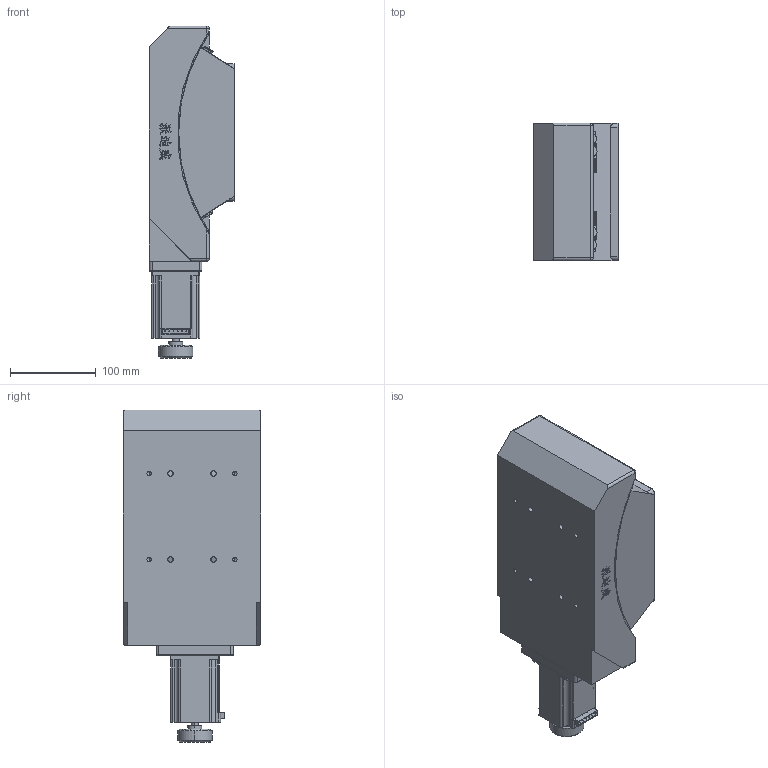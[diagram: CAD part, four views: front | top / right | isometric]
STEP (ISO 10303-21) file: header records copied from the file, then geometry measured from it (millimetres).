
FILE_DESCRIPTION (( 'STEP AP203' ), '1' );
FILE_NAME ('PT- GD304.STEP', '2022-08-21T03:50:43', ( '' ), ( '' ), 'SwSTEP 2.0', 'SolidWorks 2020', '' );
FILE_SCHEMA (( 'CONFIG_CONTROL_DESIGN' ));
Length unit declared in the file: millimetre
Products named in the file (5): ZJ130-15 ____^PT- GD304; ZJ130-15____-0^PT- GD304; 57____^PT- GD304; ZJ130-15____^PT- GD304; PT- GD304
Assembly tree (7 placements, depth 2):
  PT- GD304
    ZJ130-15 ____^PT- GD304
    ZJ130-15____^PT- GD304
    ZJ130-15____-0^PT- GD304  x4
    57____^PT- GD304
Bounding box: 100 x 160 x 386.5 mm (x, y, z)
Volume: 3531195.5 mm3; surface area: 357061.7 mm2
Topology: 7 solids, 7 shells, 579 faces, 1490 edges, 914 vertices
Faces by surface type: plane 210, cylinder 194, bspline 81, cone 80, torus 10, sphere 4
Entity records: 19845 total; most frequent: CARTESIAN_POINT 6658, ORIENTED_EDGE 2656, DIRECTION 2462, EDGE_CURVE 1328, VERTEX_POINT 860, AXIS2_PLACEMENT_3D 838, VECTOR 786, LINE 786
